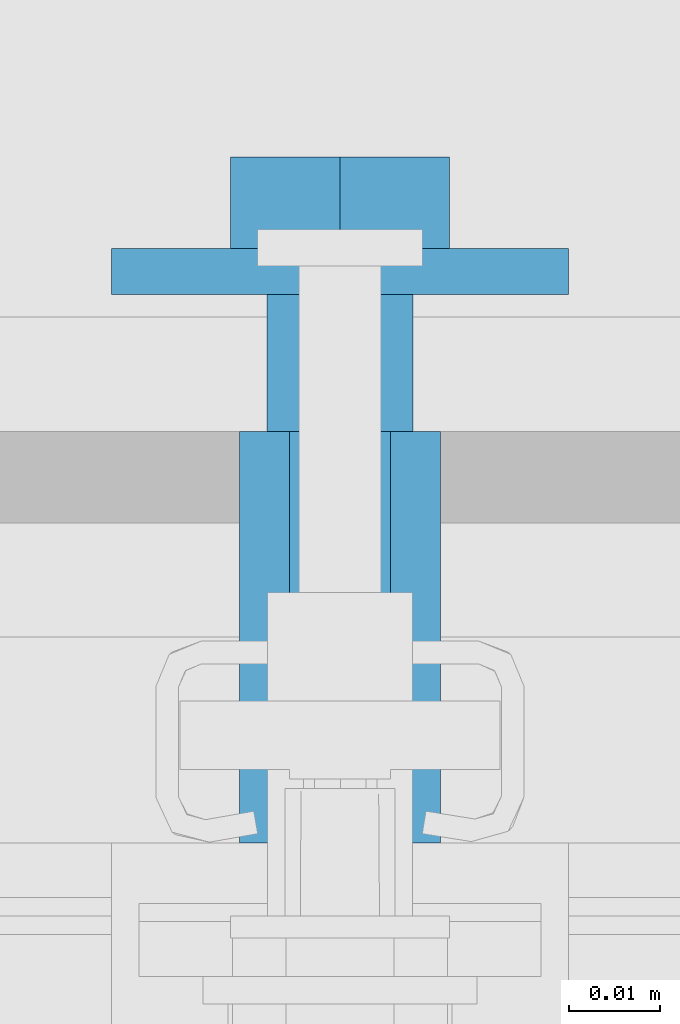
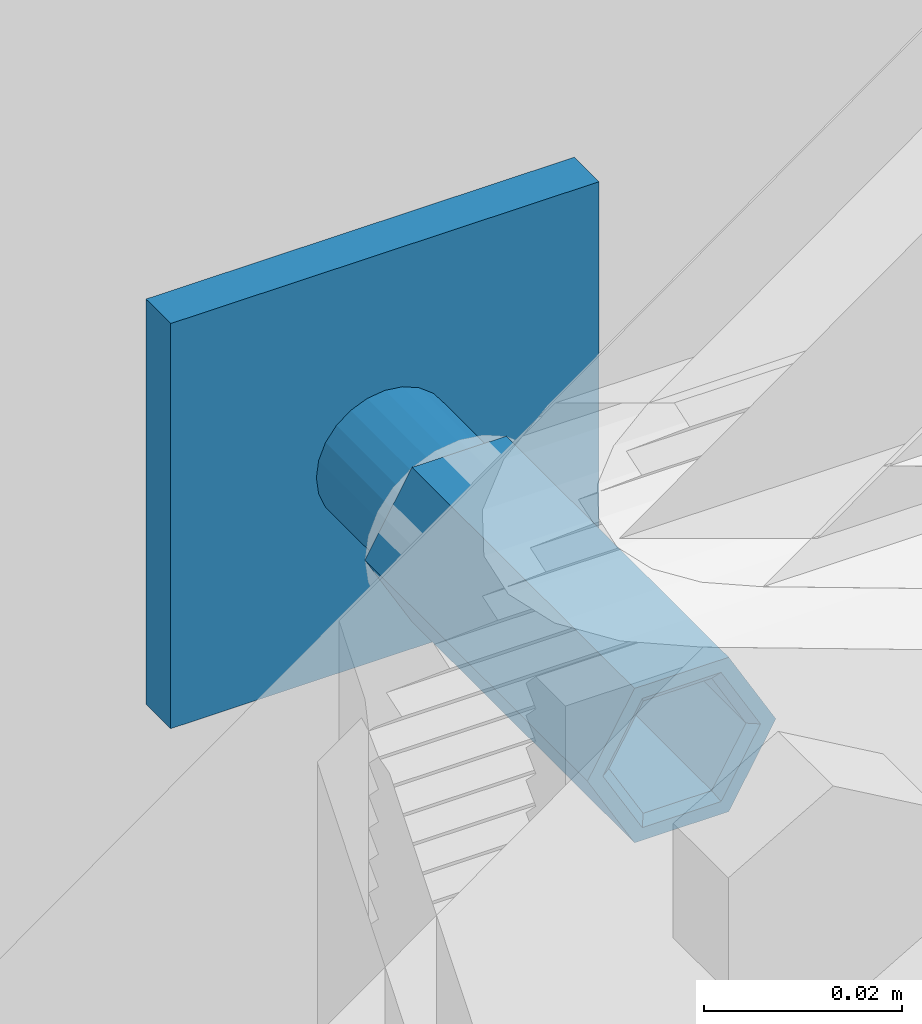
# One storey, part 4 of 8: 1 assembly.
"""IFC2X3 building model written with IfcOpenShell, lengths in metres."""

from ifc_helpers import new_model, entity, si_unit, converted_unit, derived_unit, direction, frame, origin, place, context, subcontext, project, spatial, faceted_brep, source, transform, mapped, material, type_object, type_shapes, element, save


model = new_model("IFC2X3")

# Units and contexts
model_context = context("Model", 3, precision=1e-05, world=origin(), true_north=direction((6.123031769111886e-17, 1.0)))
body_context = subcontext(model_context, "Body", "Model", "MODEL_VIEW")
ifc_project = project(units=[si_unit("LENGTHUNIT", "METRE"), si_unit("AREAUNIT", "SQUARE_METRE"), converted_unit("PLANEANGLEUNIT", "DEGREE", entity("IfcPlaneAngleMeasure", 0.017453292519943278), si_unit("PLANEANGLEUNIT", "RADIAN"), dimensions=[0, 0, 0, 0, 0, 0, 0]), si_unit("VOLUMEUNIT", "CUBIC_METRE"), derived_unit("THERMALTRANSMITTANCEUNIT", [(si_unit("MASSUNIT", "GRAM", prefix="KILO"), 1), (si_unit("THERMODYNAMICTEMPERATUREUNIT", "KELVIN"), -1), (si_unit("TIMEUNIT", "SECOND"), -3)]), derived_unit("USERDEFINED", [(si_unit("MASSUNIT", "GRAM", prefix="KILO"), 1), (si_unit("THERMODYNAMICTEMPERATUREUNIT", "KELVIN"), -1), (si_unit("TIMEUNIT", "SECOND"), -2)]), derived_unit("THERMALRESISTANCEUNIT", [(si_unit("MASSUNIT", "GRAM", prefix="KILO"), -1), (si_unit("TIMEUNIT", "SECOND"), 3), (si_unit("THERMODYNAMICTEMPERATUREUNIT", "KELVIN"), 1)]), si_unit("PRESSUREUNIT", "PASCAL"), derived_unit("MASSDENSITYUNIT", [(si_unit("MASSUNIT", "GRAM", prefix="KILO"), 1), (si_unit("LENGTHUNIT", "METRE"), -3)]), derived_unit("VAPORPERMEABILITYUNIT", [(si_unit("LENGTHUNIT", "METRE"), -1), (si_unit("TIMEUNIT", "SECOND"), 1)]), derived_unit("USERDEFINED", [(si_unit("MASSUNIT", "GRAM", prefix="KILO"), 1), (si_unit("TIMEUNIT", "SECOND"), -3), (si_unit("LENGTHUNIT", "METRE"), 3), (si_unit("ELECTRICCURRENTUNIT", "AMPERE"), -2)])], contexts=[model_context])

# Site, building, storey
site_placement = place(None, origin())
site = spatial("IfcSite", under=ifc_project, at=site_placement, Name="Default", CompositionType="ELEMENT")
building_placement = place(site_placement, origin())
building = spatial("IfcBuilding", under=site, at=building_placement, CompositionType="ELEMENT")
storey_placement = place(building_placement, origin())
storey = spatial("IfcBuildingStorey", under=building, at=storey_placement, Name="L0", CompositionType="ELEMENT", Elevation=0.0)

# Assembly
ifc_material = material(Name="REC_Acero, S 275JR (Zincado)")
type_product = type_object("IfcTypeProduct", Name="REC-HBP M16-75 EV:HBP M16-75 EV", material=ifc_material)
shared_shape = source(origin(), body_context, "Body", "Brep", [
    faceted_brep([(-0.010999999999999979, 0.0, 0.0), (-0.009199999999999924, 0.0, 0.0), (-0.005499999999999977, 0.009526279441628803, 0.0), (-0.005500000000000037, -0.009526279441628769, 0.0), (-0.004600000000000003, -0.007967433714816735, 0.0), (0.004599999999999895, -0.007967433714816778, 0.0), (0.005499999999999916, -0.009526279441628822, 0.0), (0.00919999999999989, 0.0, 0.0), (0.010999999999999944, 0.0, 0.0), (0.0054999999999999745, 0.009526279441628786, 0.0), (0.004599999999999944, 0.00796743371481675, 0.0), (-0.004599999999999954, 0.007967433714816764, 0.0), (0.0039999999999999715, 0.006928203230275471, -0.0008571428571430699), (0.007999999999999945, 0.0, -0.0008571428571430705), (-0.003999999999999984, 0.006928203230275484, -0.0008571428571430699), (-0.007999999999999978, 0.0, -0.0008571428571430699), (-0.004000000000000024, -0.006928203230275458, -0.0008571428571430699), (0.003999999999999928, -0.0069282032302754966, -0.0008571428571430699), (0.003999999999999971, 0.0069282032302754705, -0.04500000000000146), (0.007999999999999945, 0.0, -0.04500000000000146), (-0.003999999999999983, 0.006928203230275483, -0.04500000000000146), (-0.007999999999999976, 0.0, -0.04500000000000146), (-0.004000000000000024, -0.006928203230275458, -0.04500000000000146), (0.003999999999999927, -0.006928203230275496, -0.04500000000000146), (-0.005499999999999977, 0.009526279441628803, -0.04500000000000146), (-0.010999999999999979, 0.0, -0.04500000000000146), (0.0054999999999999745, 0.009526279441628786, -0.04500000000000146), (0.010999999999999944, 0.0, -0.04500000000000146), (0.005499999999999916, -0.009526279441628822, -0.04500000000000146), (-0.005500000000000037, -0.009526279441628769, -0.04500000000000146)], [[[0, 1, 2]], [[1, 0, 3]], [[3, 4, 1]], [[4, 3, 5]], [[6, 5, 3]], [[5, 6, 7]], [[8, 7, 6]], [[7, 8, 9]], [[10, 9, 2]], [[9, 10, 7]], [[11, 2, 1]], [[2, 11, 10]], [[7, 10, 12, 13]], [[10, 11, 14, 12]], [[11, 1, 15, 14]], [[1, 4, 16, 15]], [[4, 5, 17, 16]], [[5, 7, 13, 17]], [[13, 12, 18, 19]], [[12, 14, 20, 18]], [[14, 15, 21, 20]], [[15, 16, 22, 21]], [[16, 17, 23, 22]], [[17, 13, 19, 23]], [[24, 21, 25]], [[21, 24, 20]], [[18, 20, 24]], [[24, 26, 18]], [[19, 18, 26]], [[26, 27, 19]], [[28, 19, 27]], [[19, 28, 23]], [[29, 23, 28]], [[21, 22, 29]], [[23, 29, 22]], [[29, 25, 21]], [[27, 26, 9, 8]], [[26, 24, 2, 9]], [[24, 25, 0, 2]], [[25, 29, 3, 0]], [[29, 28, 6, 3]], [[28, 27, 8, 6]]]),
    faceted_brep([(0.007999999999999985, 0.0, -0.022500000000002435), (0.0077274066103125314, 0.002070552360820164, -0.022500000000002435), (0.006928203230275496, 0.003999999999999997, -0.022500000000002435), (0.005656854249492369, 0.005656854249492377, -0.022500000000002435), (0.0039999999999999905, 0.006928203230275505, -0.022500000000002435), (0.00207055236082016, 0.007727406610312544, -0.022500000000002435), (0.0, 0.008, -0.022500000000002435), (-0.0020705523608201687, 0.0077274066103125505, -0.022500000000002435), (-0.0040000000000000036, 0.006928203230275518, -0.022500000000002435), (-0.005656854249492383, 0.005656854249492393, -0.022500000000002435), (-0.006928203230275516, 0.004000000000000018, -0.022500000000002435), (-0.007727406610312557, 0.0020705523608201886, -0.022500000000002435), (-0.008000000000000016, 0.0, -0.022500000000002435), (-0.007727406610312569, -0.002070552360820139, -0.022500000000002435), (-0.006928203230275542, -0.003999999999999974, -0.022500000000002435), (-0.0056568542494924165, -0.005656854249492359, -0.022500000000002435), (-0.0040000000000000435, -0.006928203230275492, -0.022500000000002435), (-0.002070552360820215, -0.0077274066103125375, -0.022500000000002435), (0.0, -0.008, -0.022500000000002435), (0.0020705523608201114, -0.007727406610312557, -0.022500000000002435), (0.003999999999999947, -0.00692820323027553, -0.022500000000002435), (0.005656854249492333, -0.005656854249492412, -0.022500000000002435), (0.0069282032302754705, -0.004000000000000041, -0.022500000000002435), (0.007727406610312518, -0.002070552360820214, -0.022500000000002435), (0.0, 0.008, -0.060000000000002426), (0.00207055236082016, 0.007727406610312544, -0.060000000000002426), (0.0039999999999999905, 0.006928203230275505, -0.060000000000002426), (0.005656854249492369, 0.005656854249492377, -0.060000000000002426), (0.006928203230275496, 0.003999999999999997, -0.060000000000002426), (0.0077274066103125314, 0.002070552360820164, -0.060000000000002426), (0.007999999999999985, 0.0, -0.060000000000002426), (0.007727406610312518, -0.002070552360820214, -0.060000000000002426), (0.0069282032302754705, -0.004000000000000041, -0.060000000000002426), (0.005656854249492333, -0.005656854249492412, -0.060000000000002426), (0.003999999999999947, -0.00692820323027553, -0.060000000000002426), (0.0020705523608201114, -0.007727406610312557, -0.060000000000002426), (0.0, -0.008, -0.060000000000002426), (-0.002070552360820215, -0.0077274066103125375, -0.060000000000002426), (-0.0040000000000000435, -0.006928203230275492, -0.060000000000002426), (-0.0056568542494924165, -0.005656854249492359, -0.060000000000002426), (-0.006928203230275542, -0.003999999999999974, -0.060000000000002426), (-0.007727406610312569, -0.002070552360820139, -0.060000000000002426), (-0.008000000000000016, 0.0, -0.060000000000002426), (-0.007727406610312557, 0.0020705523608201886, -0.060000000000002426), (-0.006928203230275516, 0.004000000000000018, -0.060000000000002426), (-0.005656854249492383, 0.005656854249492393, -0.060000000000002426), (-0.0040000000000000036, 0.006928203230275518, -0.060000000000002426), (-0.0020705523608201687, 0.0077274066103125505, -0.060000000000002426)], [[[0, 1, 2, 3, 4, 5, 6, 7, 8, 9, 10, 11, 12, 13, 14, 15, 16, 17, 18, 19, 20, 21, 22, 23]], [[24, 25, 26, 27, 28, 29, 30, 31, 32, 33, 34, 35, 36, 37, 38, 39, 40, 41, 42, 43, 44, 45, 46, 47]], [[41, 13, 12, 42]], [[40, 14, 13, 41]], [[16, 15, 39, 38]], [[40, 39, 15, 14]], [[17, 16, 38, 37]], [[18, 17, 37, 36]], [[35, 19, 18, 36]], [[34, 20, 19, 35]], [[22, 21, 33, 32]], [[34, 33, 21, 20]], [[23, 22, 32, 31]], [[0, 23, 31, 30]], [[29, 1, 0, 30]], [[28, 2, 1, 29]], [[4, 3, 27, 26]], [[28, 27, 3, 2]], [[5, 4, 26, 25]], [[6, 5, 25, 24]], [[47, 7, 6, 24]], [[46, 8, 7, 47]], [[10, 9, 45, 44]], [[46, 45, 9, 8]], [[11, 10, 44, 43]], [[12, 11, 43, 42]]]),
    faceted_brep([(0.02499999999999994, 0.025000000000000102, -0.060000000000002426), (-0.024999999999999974, 0.025000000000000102, -0.060000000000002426), (-0.024999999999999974, -0.025000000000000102, -0.060000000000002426), (0.02499999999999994, -0.025000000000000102, -0.060000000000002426), (0.02499999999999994, 0.025000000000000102, -0.06500000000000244), (0.02499999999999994, -0.025000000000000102, -0.06500000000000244), (-0.024999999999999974, -0.025000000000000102, -0.06500000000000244), (-0.024999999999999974, 0.025000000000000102, -0.06500000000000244)], [[[0, 1, 2, 3]], [[4, 5, 6, 7]], [[1, 0, 4, 7]], [[2, 1, 7, 6]], [[3, 2, 6, 5]], [[0, 3, 5, 4]]]),
    faceted_brep([(-0.011999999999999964, 0.00692820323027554, -0.06500000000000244), (-0.011999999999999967, -0.006928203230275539, -0.06500000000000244), (0.0, -0.013856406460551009, -0.06500000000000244), (0.011999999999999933, -0.00692820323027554, -0.06500000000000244), (0.011999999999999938, 0.00692820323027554, -0.06500000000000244), (0.0, 0.01385640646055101, -0.06500000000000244), (-0.011999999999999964, 0.00692820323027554, -0.07500000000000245), (0.0, 0.01385640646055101, -0.07500000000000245), (0.011999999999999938, 0.00692820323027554, -0.07500000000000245), (0.011999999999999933, -0.00692820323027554, -0.07500000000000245), (0.0, -0.013856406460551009, -0.07500000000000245), (-0.011999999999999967, -0.00692820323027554, -0.07500000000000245)], [[[0, 1, 2, 3, 4, 5]], [[6, 7, 8, 9, 10, 11]], [[1, 0, 6, 11]], [[2, 1, 11, 10]], [[3, 2, 10, 9]], [[4, 3, 9, 8]], [[5, 4, 8, 7]], [[0, 5, 7, 6]]]),
])
type_shapes(type_product, [shared_shape])
assembly_placement = place(storey_placement, frame((7.387720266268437, 15.934530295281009, 0.07200000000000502), z_axis=(0.0, -1.0, 0.0), x_axis=(1.0, 0.0, 0.0)))
element("IfcElementAssembly", 1, at=assembly_placement, inside=storey, type_object=type_product, material=ifc_material, Name="REC-HBP M16-75 EV:HBP M16-75 EV", ObjectType="REC-HBP M16-75 EV:HBP M16-75 EV", AssemblyPlace="NOTDEFINED", PredefinedType="NOTDEFINED", context=body_context, shape_type="MappedRepresentation", body=[
    mapped(shared_shape, transform((0.0, 0.0, 0.0), scale=1.0)),
])

save(model, "model.ifc")
